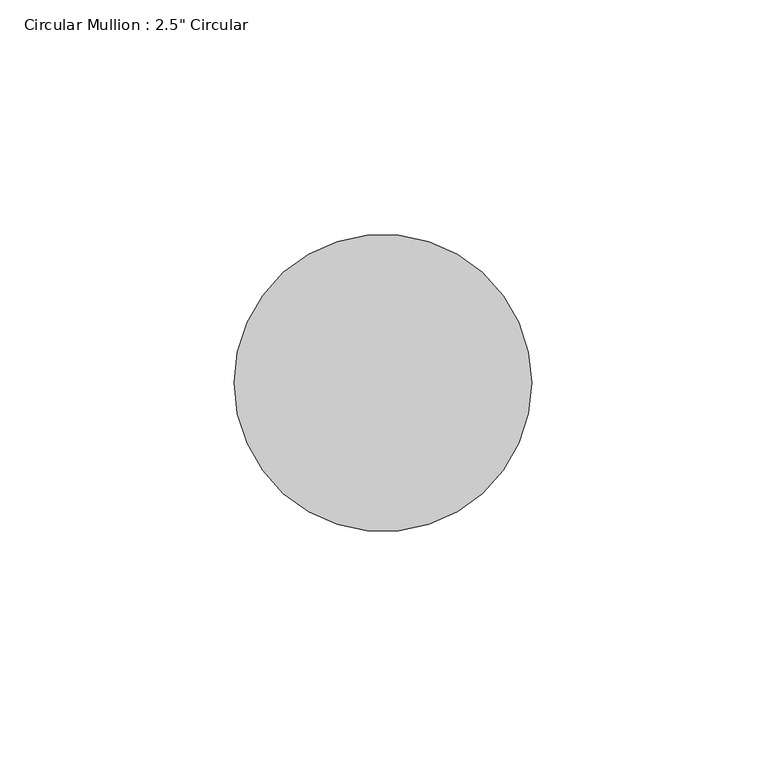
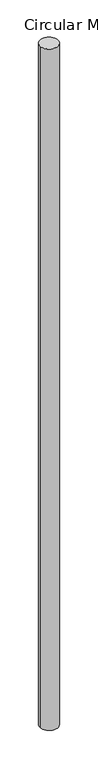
"""IFC4 building model written with IfcOpenShell, lengths in millimetres: member geometry."""

from ifc_helpers import new_model, si_unit, point, frame, frame_2d, origin, place, context, project, spatial, circle_curve, trimmed, segment, composite_curve, outline, extrude, source, transform, mapped, element, save


def member_bf03518d(model_context):
    return source(origin(), model_context, "Body", "SweptSolid", [
        extrude(outline(composite_curve([segment(trimmed(circle_curve(frame_2d((-31.75, 0.0)), 31.75), [point((0.0, 0.0))], [point((-63.5, 0.0))], False, "CARTESIAN"), True, "CONTINUOUS"), segment(trimmed(circle_curve(frame_2d((-31.75, 0.0)), 31.75), [point((-63.5, 0.0))], [point((0.0, 0.0))], False, "CARTESIAN"), True, "CONTINUOUS")], self_intersect=False)), frame((0.0, 0.0, -2520.836816), z_axis=(0.0, 0.0, 1.0), x_axis=(1.0, 0.0, 0.0)), (0.0, 0.0, 1.0), 2520.836816),
    ])


if __name__ == "__main__":
    model = new_model("IFC4")
    model_context = context("Model", 3, world=origin())
    ifc_project = project(units=[si_unit("LENGTHUNIT", "METRE", prefix="MILLI")], contexts=[model_context])
    site = spatial("IfcSite", under=ifc_project)
    building = spatial("IfcBuilding", under=site)
    placement = place(None, origin())
    member_shape = member_bf03518d(model_context)
    element("IfcMember", 1, ObjectType="Circular Mullion : 2.5\" Circular", at=placement, inside=building, context=model_context, shape_type="MappedRepresentation", body=[
        mapped(member_shape, transform((0.0, 0.0, 0.0), x_axis=(1.0, 0.0, 0.0), y_axis=(0.0, 1.0, 0.0), z_axis=(0.0, 0.0, 1.0))),
    ])
    save(model, "model.ifc")
